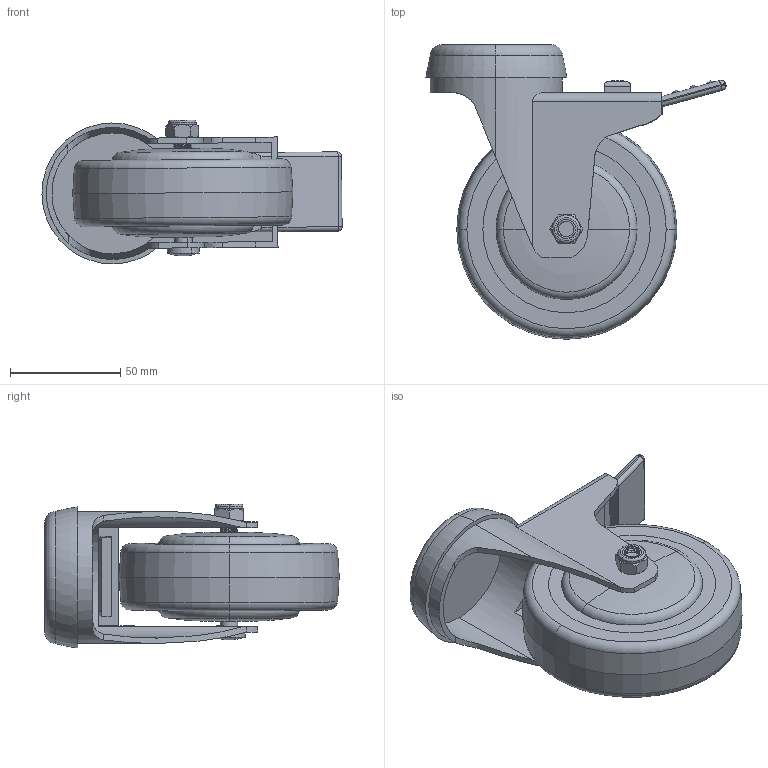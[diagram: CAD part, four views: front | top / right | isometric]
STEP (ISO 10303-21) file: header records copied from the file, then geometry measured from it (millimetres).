
FILE_DESCRIPTION (( 'STEP AP214' ), '1' );
FILE_NAME ('WCB100-H-TB.step', '2024-01-12T00:38:31', ( '' ), ( '' ), 'SwSTEP 2.0', 'SolidWorks 2022', '' );
FILE_SCHEMA (( 'AUTOMOTIVE_DESIGN' ));
Length unit declared in the file: millimetre
Products named in the file (5): MCB100; M8Nyloc; WCB100-H-TB; WC-M8x55; WCB-100-H-TB 12mm Fork
Assembly tree (4 placements, depth 2):
  WCB100-H-TB
    WCB-100-H-TB 12mm Fork
    WC-M8x55
    M8Nyloc
    MCB100
Bounding box: 136.31 x 133.74 x 65.32 mm (x, y, z)
Volume: 315641.9 mm3; surface area: 67528.9 mm2
Topology: 4 solids, 4 shells, 688 faces, 1837 edges, 1205 vertices
Faces by surface type: plane 383, bspline 160, cylinder 100, torus 20, cone 18, sphere 7
Entity records: 32729 total; most frequent: CARTESIAN_POINT 16501, ORIENTED_EDGE 3660, DIRECTION 2588, EDGE_CURVE 1830, LINE 1218, VECTOR 1218, VERTEX_POINT 1201, EDGE_LOOP 747
